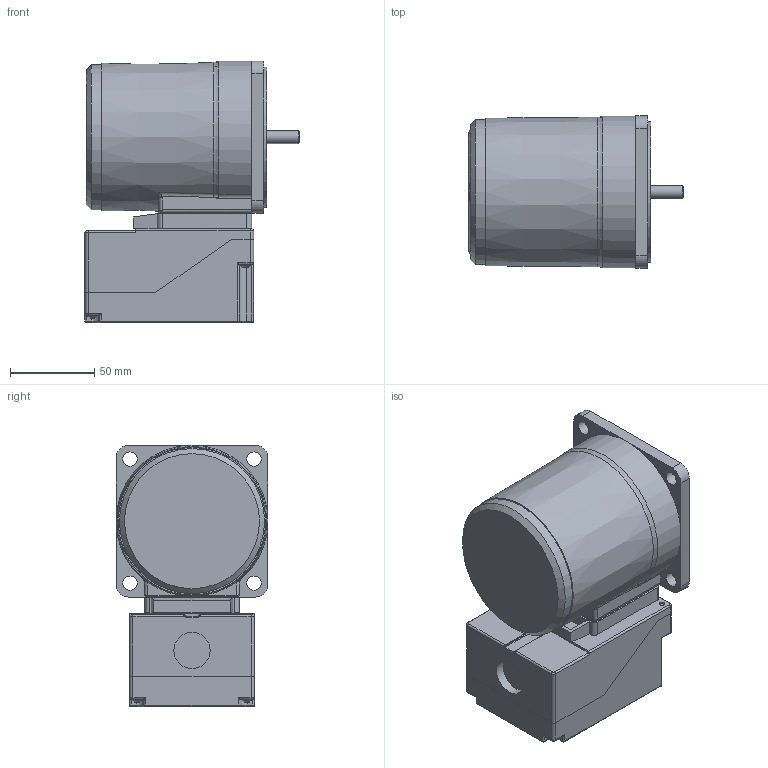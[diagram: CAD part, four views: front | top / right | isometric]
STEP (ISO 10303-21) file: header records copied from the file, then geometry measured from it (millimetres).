
FILE_DESCRIPTION(/* description */ (''),/* implementation_level */ '2;1');
FILE_NAME(/* name */ 'E:\도면작업\2016\0704) 미주향 SG 도면\3D MOTOR\TERMINAL BOX TYPE\INDUCTION TERMINAL BOX\SG9I40G_-T2.stp',/* time_stamp */ '2017-01-23T18:32:52+09:00',/* author */ ('jy-jung'),/* organization */ (''),/* preprocessor_version */ 'ST-DEVELOPER v15.6',/* originating_system */ 'Autodesk Inventor 2015',/* authorisation */ '');
FILE_SCHEMA (('AUTOMOTIVE_DESIGN { 1 0 10303 214 3 1 1 }'));
Length unit declared in the file: millimetre
Products named in the file (1): 부품4
Bounding box: 127 x 90 x 155 mm (x, y, z)
Volume: 788013.4 mm3; surface area: 129767.4 mm2
Topology: 1 solids, 5 shells, 841 faces, 2233 edges, 1424 vertices
Faces by surface type: plane 437, cylinder 291, bspline 51, torus 30, cone 20, sphere 12
Full cylindrical faces by diameter (mm): 2.5 x4, 3 x4, 3.2 x3, 3.4 x1, 4.2 x1, 4.5 x8, 5.5 x8, 6.9 x4, 7.62 x1, 8.5 x4, 21.5 x1, 40 x1, 83 x1, 86 x1
Entity records: 28121 total; most frequent: CARTESIAN_POINT 6704, DIRECTION 4258, ORIENTED_EDGE 4236, EDGE_CURVE 2118, AXIS2_PLACEMENT_3D 1499, VERTEX_POINT 1407, LINE 1260, VECTOR 1260
